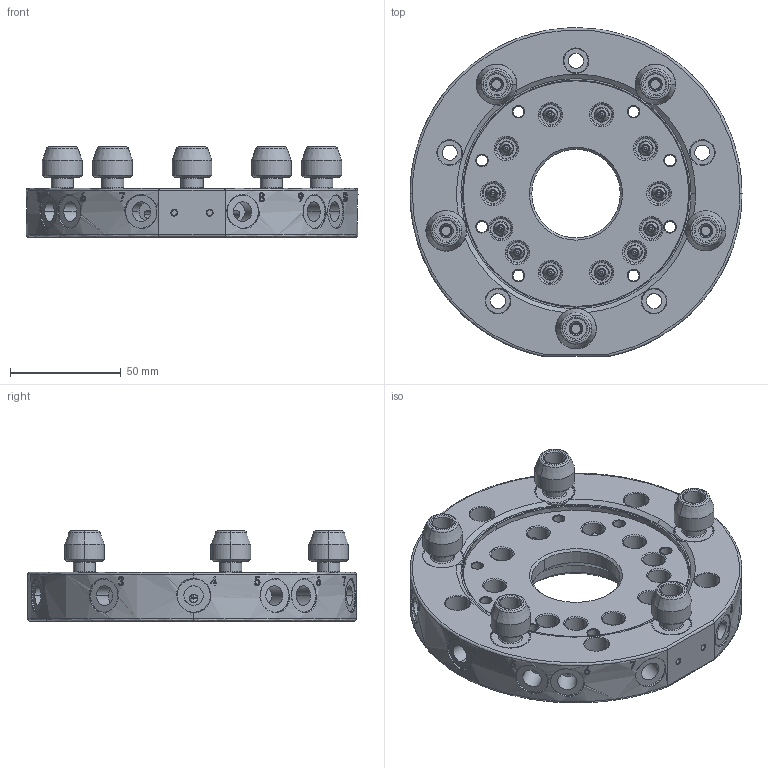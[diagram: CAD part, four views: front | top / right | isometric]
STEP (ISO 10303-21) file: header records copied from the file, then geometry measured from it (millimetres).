
FILE_DESCRIPTION (( 'STEP AP203' ), '1' );
FILE_NAME ('1QC-G160.STEP', '2024-04-09T01:27:58', ( '微软用户' ), ( '微软中国' ), 'SwSTEP 2.0', 'SolidWorks 2018', '' );
FILE_SCHEMA (( 'CONFIG_CONTROL_DESIGN' ));
Products named in the file (1): 1QC-G160
Bounding box: 150 x 148.5 x 40.7 mm (x, y, z)
Volume: 306586.7 mm3; surface area: 71057.1 mm2
Topology: 12 solids, 12 shells, 1059 faces, 2801 edges, 1858 vertices
Faces by surface type: bspline 327, cylinder 260, cone 250, plane 222
Entity records: 62112 total; most frequent: CARTESIAN_POINT 39366, ORIENTED_EDGE 5592, DIRECTION 3410, EDGE_CURVE 2796, VERTEX_POINT 1858, AXIS2_PLACEMENT_3D 1325, EDGE_LOOP 1236, B_SPLINE_CURVE_WITH_KNOTS 1153
